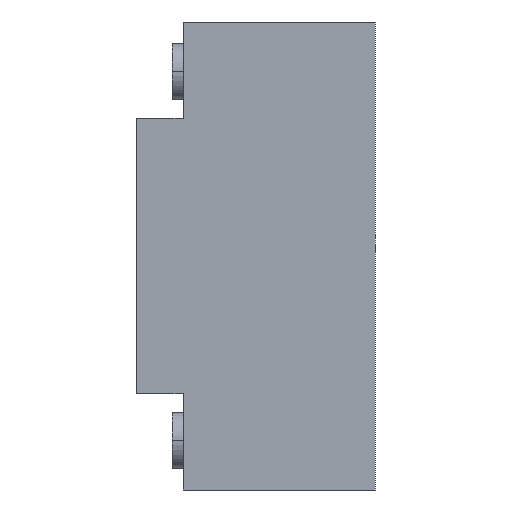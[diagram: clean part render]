
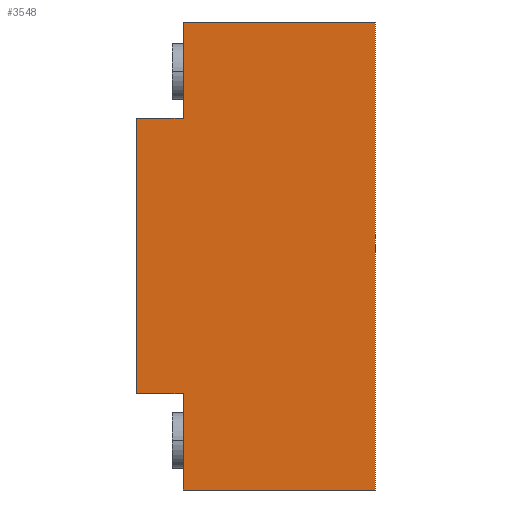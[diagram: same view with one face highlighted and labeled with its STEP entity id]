
A CAD part, left-side view. The second image highlights one B-rep face of the part: STEP entity #3548.
In plain terms, the highlighted planar face has unit normal (-1, 0, 0).
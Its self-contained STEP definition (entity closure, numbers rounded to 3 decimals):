
#1=DIRECTION('',(0.,1.,0.));
#2=VECTOR('',#1,34.9);
#3=CARTESIAN_POINT('',(-276.1,0.,-42.5));
#4=LINE('',#3,#2);
#5=DIRECTION('',(0.,0.,1.));
#6=VECTOR('',#5,17.5);
#7=CARTESIAN_POINT('',(-276.1,34.9,-42.5));
#8=LINE('',#7,#6);
#9=DIRECTION('',(0.,1.,0.));
#10=VECTOR('',#9,8.4);
#11=CARTESIAN_POINT('',(-276.1,34.9,-25.));
#12=LINE('',#11,#10);
#13=DIRECTION('',(0.,0.,1.));
#14=VECTOR('',#13,50.);
#15=CARTESIAN_POINT('',(-276.1,43.3,-25.));
#16=LINE('',#15,#14);
#17=DIRECTION('',(0.,-1.,0.));
#18=VECTOR('',#17,8.4);
#19=CARTESIAN_POINT('',(-276.1,43.3,25.));
#20=LINE('',#19,#18);
#21=DIRECTION('',(0.,0.,1.));
#22=VECTOR('',#21,17.5);
#23=CARTESIAN_POINT('',(-276.1,34.9,25.));
#24=LINE('',#23,#22);
#25=DIRECTION('',(0.,-1.,0.));
#26=VECTOR('',#25,34.9);
#27=CARTESIAN_POINT('',(-276.1,34.9,42.5));
#28=LINE('',#27,#26);
#29=DIRECTION('',(0.,0.,-1.));
#30=VECTOR('',#29,85.);
#31=CARTESIAN_POINT('',(-276.1,0.,42.5));
#32=LINE('',#31,#30);
#2689=CARTESIAN_POINT('',(-276.1,0.,-42.5));
#2690=CARTESIAN_POINT('',(-276.1,34.9,-42.5));
#2691=VERTEX_POINT('',#2689);
#2692=VERTEX_POINT('',#2690);
#2693=CARTESIAN_POINT('',(-276.1,34.9,-25.));
#2694=VERTEX_POINT('',#2693);
#2695=CARTESIAN_POINT('',(-276.1,43.3,-25.));
#2696=VERTEX_POINT('',#2695);
#2697=CARTESIAN_POINT('',(-276.1,43.3,25.));
#2698=VERTEX_POINT('',#2697);
#2699=CARTESIAN_POINT('',(-276.1,34.9,25.));
#2700=VERTEX_POINT('',#2699);
#2701=CARTESIAN_POINT('',(-276.1,34.9,42.5));
#2702=VERTEX_POINT('',#2701);
#2703=CARTESIAN_POINT('',(-276.1,0.,42.5));
#2704=VERTEX_POINT('',#2703);
#3525=CARTESIAN_POINT('',(-276.1,0.,0.));
#3526=DIRECTION('',(1.,0.,0.));
#3527=DIRECTION('',(0.,-1.,0.));
#3528=AXIS2_PLACEMENT_3D('',#3525,#3526,#3527);
#3529=PLANE('',#3528);
#3531=ORIENTED_EDGE('',*,*,#3530,.T.);
#3533=ORIENTED_EDGE('',*,*,#3532,.T.);
#3535=ORIENTED_EDGE('',*,*,#3534,.T.);
#3537=ORIENTED_EDGE('',*,*,#3536,.T.);
#3539=ORIENTED_EDGE('',*,*,#3538,.T.);
#3541=ORIENTED_EDGE('',*,*,#3540,.T.);
#3543=ORIENTED_EDGE('',*,*,#3542,.T.);
#3545=ORIENTED_EDGE('',*,*,#3544,.T.);
#3546=EDGE_LOOP('',(#3531,#3533,#3535,#3537,#3539,#3541,#3543,#3545));
#3547=FACE_OUTER_BOUND('',#3546,.F.);
#3548=ADVANCED_FACE('',(#3547),#3529,.F.);
#3530=EDGE_CURVE('',#2691,#2692,#4,.T.);
#3532=EDGE_CURVE('',#2692,#2694,#8,.T.);
#3534=EDGE_CURVE('',#2694,#2696,#12,.T.);
#3536=EDGE_CURVE('',#2696,#2698,#16,.T.);
#3538=EDGE_CURVE('',#2698,#2700,#20,.T.);
#3540=EDGE_CURVE('',#2700,#2702,#24,.T.);
#3542=EDGE_CURVE('',#2702,#2704,#28,.T.);
#3544=EDGE_CURVE('',#2704,#2691,#32,.T.);
